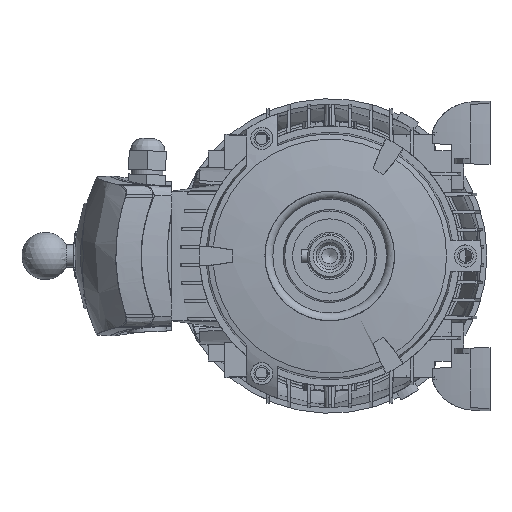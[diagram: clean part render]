
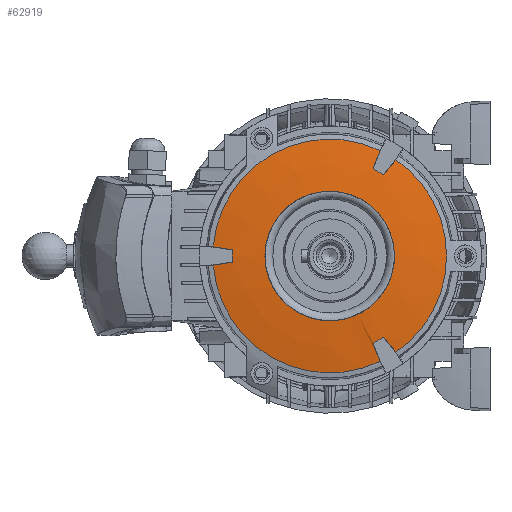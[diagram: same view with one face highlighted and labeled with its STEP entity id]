
A CAD part, left-side view. The second image highlights one B-rep face of the part: STEP entity #62919.
In plain terms, the highlighted free-form (B-spline) face has degree [2, 2] with [3, 9] control points.
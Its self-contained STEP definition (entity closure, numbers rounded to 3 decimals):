
#62568=CARTESIAN_POINT('',(-66.733,-31.98,20.592));
#62569=VERTEX_POINT('',#62568);
#62577=CARTESIAN_POINT('',(-5.671,73.782,20.592));
#62578=VERTEX_POINT('',#62577);
#62579=CARTESIAN_POINT('',(0.0,0.0,20.592));
#62580=DIRECTION('',(0.0,0.0,-1.0));
#62581=DIRECTION('',(-1.0,0.0,0.0));
#62582=AXIS2_PLACEMENT_3D('',#62579,#62580,#62581);
#62583=CIRCLE('',#62582,74.);
#62584=EDGE_CURVE('',#62569,#62578,#62583,.T.);
#62761=CARTESIAN_POINT('',(-74.026,0.,20.588));
#62762=CARTESIAN_POINT('',(-37.235,0.,27.063));
#62763=CARTESIAN_POINT('',(0.,0.,24.051));
#62764=CARTESIAN_POINT('',(-74.026,74.026,20.588));
#62765=CARTESIAN_POINT('',(-37.235,37.235,27.063));
#62766=CARTESIAN_POINT('',(0.,0.,24.051));
#62767=CARTESIAN_POINT('',(0.,74.026,20.588));
#62768=CARTESIAN_POINT('',(0.,37.235,27.063));
#62769=CARTESIAN_POINT('',(0.,0.,24.051));
#62770=CARTESIAN_POINT('',(74.026,74.026,20.588));
#62771=CARTESIAN_POINT('',(37.235,37.235,27.063));
#62772=CARTESIAN_POINT('',(0.,0.,24.051));
#62773=CARTESIAN_POINT('',(74.026,0.,20.588));
#62774=CARTESIAN_POINT('',(37.235,0.,27.063));
#62775=CARTESIAN_POINT('',(0.,0.,24.051));
#62776=CARTESIAN_POINT('',(74.026,-74.026,20.588));
#62777=CARTESIAN_POINT('',(37.235,-37.235,27.063));
#62778=CARTESIAN_POINT('',(0.,0.,24.051));
#62779=CARTESIAN_POINT('',(0.,-74.026,20.588));
#62780=CARTESIAN_POINT('',(0.,-37.235,27.063));
#62781=CARTESIAN_POINT('',(0.,0.,24.051));
#62782=CARTESIAN_POINT('',(-74.026,-74.026,20.588));
#62783=CARTESIAN_POINT('',(-37.235,-37.235,27.063));
#62784=CARTESIAN_POINT('',(0.,0.,24.051));
#62785=CARTESIAN_POINT('',(-74.026,0.,20.588));
#62786=CARTESIAN_POINT('',(-37.235,0.,27.063));
#62787=CARTESIAN_POINT('',(0.,0.,24.051));
#62795=(BOUNDED_SURFACE()B_SPLINE_SURFACE(2,2,((#62761,#62764,#62767,#62770,#62773,#62776,#62779,#62782,#62785),(#62762,#62765,#62768,#62771,#62774,#62777,#62780,#62783,#62786),(#62763,#62766,#62769,#62772,#62775,#62778,#62781,#62784,#62787)),.UNSPECIFIED.,.F.,.T.,.U.)B_SPLINE_SURFACE_WITH_KNOTS((3,3),(3,2,2,2,3),(1.397,1.652),(0.0,1.571,3.142,4.712,6.283),.UNSPECIFIED.)GEOMETRIC_REPRESENTATION_ITEM()RATIONAL_B_SPLINE_SURFACE(((1.0,0.707,1.0,0.707,1.0,0.707,1.0,0.707,1.0),(0.992,0.701,0.992,0.701,0.992,0.701,0.992,0.701,0.992),(1.0,0.707,1.0,0.707,1.0,0.707,1.0,0.707,1.0)))REPRESENTATION_ITEM('')SURFACE());
#62796=CARTESIAN_POINT('',(41.,0.0,24.474));
#62797=VERTEX_POINT('',#62796);
#62798=CARTESIAN_POINT('',(0.0,0.0,24.474));
#62799=DIRECTION('',(0.0,0.0,-1.0));
#62800=DIRECTION('',(1.0,0.0,0.0));
#62801=AXIS2_PLACEMENT_3D('',#62798,#62799,#62800);
#62802=CIRCLE('',#62801,41.);
#62803=EDGE_CURVE('',#62797,#62797,#62802,.T.);
#62804=ORIENTED_EDGE('',*,*,#62803,.T.);
#62805=EDGE_LOOP('',(#62804));
#62806=FACE_OUTER_BOUND('',#62805,.T.);
#62807=CARTESIAN_POINT('',(5.671,73.782,20.592));
#62808=VERTEX_POINT('',#62807);
#62809=CARTESIAN_POINT('',(66.733,-31.98,20.592));
#62810=VERTEX_POINT('',#62809);
#62811=CARTESIAN_POINT('',(0.0,0.0,20.592));
#62812=DIRECTION('',(0.0,0.0,-1.0));
#62813=DIRECTION('',(-1.0,0.0,0.0));
#62814=AXIS2_PLACEMENT_3D('',#62811,#62812,#62813);
#62815=CIRCLE('',#62814,74.);
#62816=EDGE_CURVE('',#62808,#62810,#62815,.T.);
#62817=ORIENTED_EDGE('',*,*,#62816,.F.);
#62818=CARTESIAN_POINT('',(3.807,61.476,22.5));
#62819=VERTEX_POINT('',#62818);
#62820=CARTESIAN_POINT('',(3.807,61.476,22.5));
#62821=CARTESIAN_POINT('',(3.9,61.905,22.443));
#62822=CARTESIAN_POINT('',(3.989,62.334,22.385));
#62823=CARTESIAN_POINT('',(4.814,66.418,21.821));
#62824=CARTESIAN_POINT('',(5.345,70.096,21.243));
#62825=CARTESIAN_POINT('',(5.671,73.782,20.592));
#62826=B_SPLINE_CURVE_WITH_KNOTS('',3,(#62820,#62821,#62822,#62823,#62824,#62825),.UNSPECIFIED.,.F.,.U.,(4,2,4),(38.011,38.143,39.27),.UNSPECIFIED.);
#62827=EDGE_CURVE('',#62819,#62808,#62826,.T.);
#62828=ORIENTED_EDGE('',*,*,#62827,.F.);
#62829=CARTESIAN_POINT('',(-3.807,61.476,22.5));
#62830=VERTEX_POINT('',#62829);
#62831=CARTESIAN_POINT('',(0.0,0.0,22.5));
#62832=DIRECTION('',(0.0,0.0,-1.0));
#62833=DIRECTION('',(1.0,0.0,0.0));
#62834=AXIS2_PLACEMENT_3D('',#62831,#62832,#62833);
#62835=CIRCLE('',#62834,61.594);
#62836=EDGE_CURVE('',#62830,#62819,#62835,.T.);
#62837=ORIENTED_EDGE('',*,*,#62836,.F.);
#62838=CARTESIAN_POINT('',(-5.671,73.782,20.592));
#62839=CARTESIAN_POINT('',(-5.585,72.815,20.763));
#62840=CARTESIAN_POINT('',(-5.486,71.848,20.929));
#62841=CARTESIAN_POINT('',(-5.,67.73,21.614));
#62842=CARTESIAN_POINT('',(-4.479,64.591,22.085));
#62843=CARTESIAN_POINT('',(-3.807,61.476,22.5));
#62844=B_SPLINE_CURVE_WITH_KNOTS('',3,(#62838,#62839,#62840,#62841,#62842,#62843),.UNSPECIFIED.,.F.,.U.,(4,2,4),(26.546,26.842,27.807),.UNSPECIFIED.);
#62845=EDGE_CURVE('',#62578,#62830,#62844,.T.);
#62846=ORIENTED_EDGE('',*,*,#62845,.F.);
#62847=ORIENTED_EDGE('',*,*,#62584,.F.);
#62848=CARTESIAN_POINT('',(-55.144,-27.441,22.5));
#62849=VERTEX_POINT('',#62848);
#62850=CARTESIAN_POINT('',(-55.144,-27.441,22.5));
#62851=CARTESIAN_POINT('',(-55.561,-27.575,22.443));
#62852=CARTESIAN_POINT('',(-55.977,-27.712,22.385));
#62853=CARTESIAN_POINT('',(-59.926,-29.04,21.821));
#62854=CARTESIAN_POINT('',(-63.377,-30.42,21.243));
#62855=CARTESIAN_POINT('',(-66.733,-31.98,20.592));
#62856=B_SPLINE_CURVE_WITH_KNOTS('',3,(#62850,#62851,#62852,#62853,#62854,#62855),.UNSPECIFIED.,.F.,.U.,(4,2,4),(38.011,38.143,39.27),.UNSPECIFIED.);
#62857=EDGE_CURVE('',#62849,#62569,#62856,.T.);
#62858=ORIENTED_EDGE('',*,*,#62857,.F.);
#62859=CARTESIAN_POINT('',(-51.336,-34.035,22.5));
#62860=VERTEX_POINT('',#62859);
#62861=CARTESIAN_POINT('',(0.0,0.0,22.5));
#62862=DIRECTION('',(0.0,0.0,-1.0));
#62863=DIRECTION('',(1.0,0.0,0.0));
#62864=AXIS2_PLACEMENT_3D('',#62861,#62862,#62863);
#62865=CIRCLE('',#62864,61.594);
#62866=EDGE_CURVE('',#62860,#62849,#62865,.T.);
#62867=ORIENTED_EDGE('',*,*,#62866,.F.);
#62868=CARTESIAN_POINT('',(-61.062,-41.802,20.592));
#62869=VERTEX_POINT('',#62868);
#62870=CARTESIAN_POINT('',(-61.062,-41.802,20.592));
#62871=CARTESIAN_POINT('',(-60.267,-41.245,20.763));
#62872=CARTESIAN_POINT('',(-59.48,-40.675,20.929));
#62873=CARTESIAN_POINT('',(-56.156,-38.195,21.614));
#62874=CARTESIAN_POINT('',(-53.699,-36.174,22.085));
#62875=CARTESIAN_POINT('',(-51.336,-34.035,22.5));
#62876=B_SPLINE_CURVE_WITH_KNOTS('',3,(#62870,#62871,#62872,#62873,#62874,#62875),.UNSPECIFIED.,.F.,.U.,(4,2,4),(26.546,26.842,27.807),.UNSPECIFIED.);
#62877=EDGE_CURVE('',#62869,#62860,#62876,.T.);
#62878=ORIENTED_EDGE('',*,*,#62877,.F.);
#62879=CARTESIAN_POINT('',(61.062,-41.802,20.592));
#62880=VERTEX_POINT('',#62879);
#62881=CARTESIAN_POINT('',(0.0,0.0,20.592));
#62882=DIRECTION('',(0.0,0.0,-1.0));
#62883=DIRECTION('',(-1.0,0.0,0.0));
#62884=AXIS2_PLACEMENT_3D('',#62881,#62882,#62883);
#62885=CIRCLE('',#62884,74.0);
#62886=EDGE_CURVE('',#62880,#62869,#62885,.T.);
#62887=ORIENTED_EDGE('',*,*,#62886,.F.);
#62888=CARTESIAN_POINT('',(51.336,-34.035,22.5));
#62889=VERTEX_POINT('',#62888);
#62890=CARTESIAN_POINT('',(51.336,-34.035,22.5));
#62891=CARTESIAN_POINT('',(51.661,-34.329,22.443));
#62892=CARTESIAN_POINT('',(51.988,-34.622,22.385));
#62893=CARTESIAN_POINT('',(55.113,-37.377,21.821));
#62894=CARTESIAN_POINT('',(58.033,-39.677,21.243));
#62895=CARTESIAN_POINT('',(61.062,-41.802,20.592));
#62896=B_SPLINE_CURVE_WITH_KNOTS('',3,(#62890,#62891,#62892,#62893,#62894,#62895),.UNSPECIFIED.,.F.,.U.,(4,2,4),(38.011,38.143,39.27),.UNSPECIFIED.);
#62897=EDGE_CURVE('',#62889,#62880,#62896,.T.);
#62898=ORIENTED_EDGE('',*,*,#62897,.F.);
#62899=CARTESIAN_POINT('',(55.144,-27.441,22.5));
#62900=VERTEX_POINT('',#62899);
#62901=CARTESIAN_POINT('',(0.0,0.0,22.5));
#62902=DIRECTION('',(0.0,0.0,-1.0));
#62903=DIRECTION('',(1.0,0.0,0.0));
#62904=AXIS2_PLACEMENT_3D('',#62901,#62902,#62903);
#62905=CIRCLE('',#62904,61.594);
#62906=EDGE_CURVE('',#62900,#62889,#62905,.T.);
#62907=ORIENTED_EDGE('',*,*,#62906,.F.);
#62908=CARTESIAN_POINT('',(66.733,-31.98,20.592));
#62909=CARTESIAN_POINT('',(65.853,-31.571,20.763));
#62910=CARTESIAN_POINT('',(64.965,-31.174,20.929));
#62911=CARTESIAN_POINT('',(61.156,-29.535,21.614));
#62912=CARTESIAN_POINT('',(58.177,-28.417,22.085));
#62913=CARTESIAN_POINT('',(55.144,-27.441,22.5));
#62914=B_SPLINE_CURVE_WITH_KNOTS('',3,(#62908,#62909,#62910,#62911,#62912,#62913),.UNSPECIFIED.,.F.,.U.,(4,2,4),(26.546,26.842,27.807),.UNSPECIFIED.);
#62915=EDGE_CURVE('',#62810,#62900,#62914,.T.);
#62916=ORIENTED_EDGE('',*,*,#62915,.F.);
#62917=EDGE_LOOP('',(#62817,#62828,#62837,#62846,#62847,#62858,#62867,#62878,#62887,#62898,#62907,#62916));
#62918=FACE_BOUND('',#62917,.T.);
#62919=ADVANCED_FACE('',(#62806,#62918),#62795,.T.);
